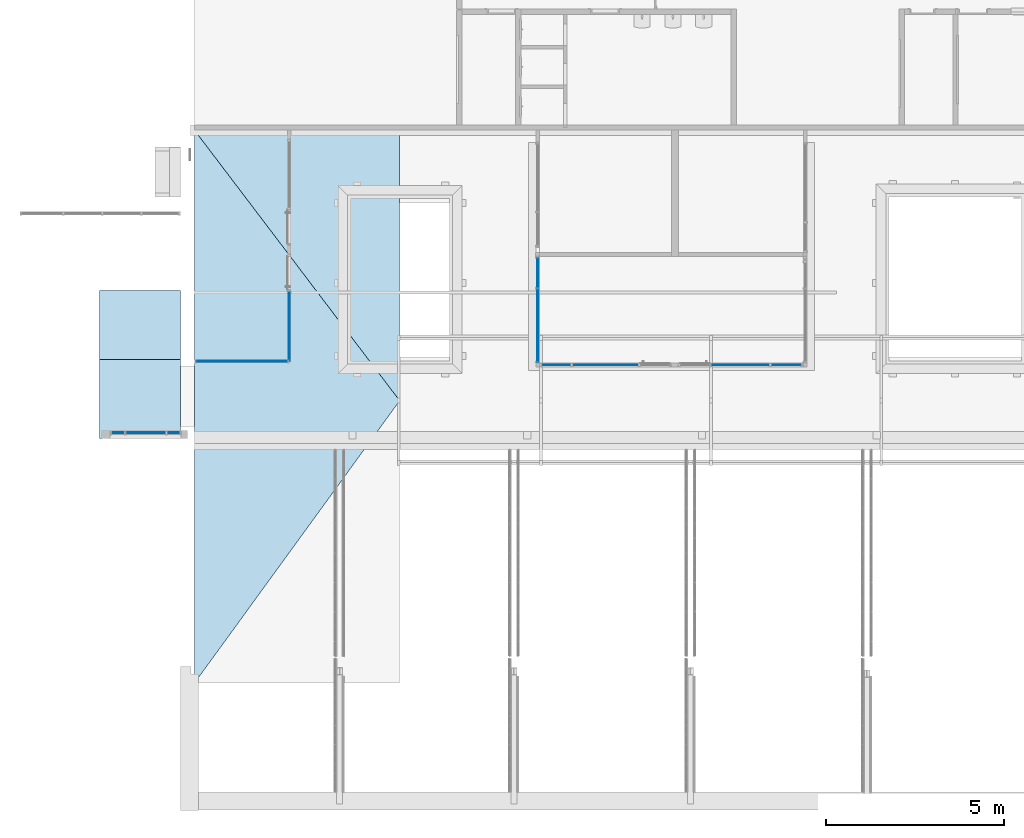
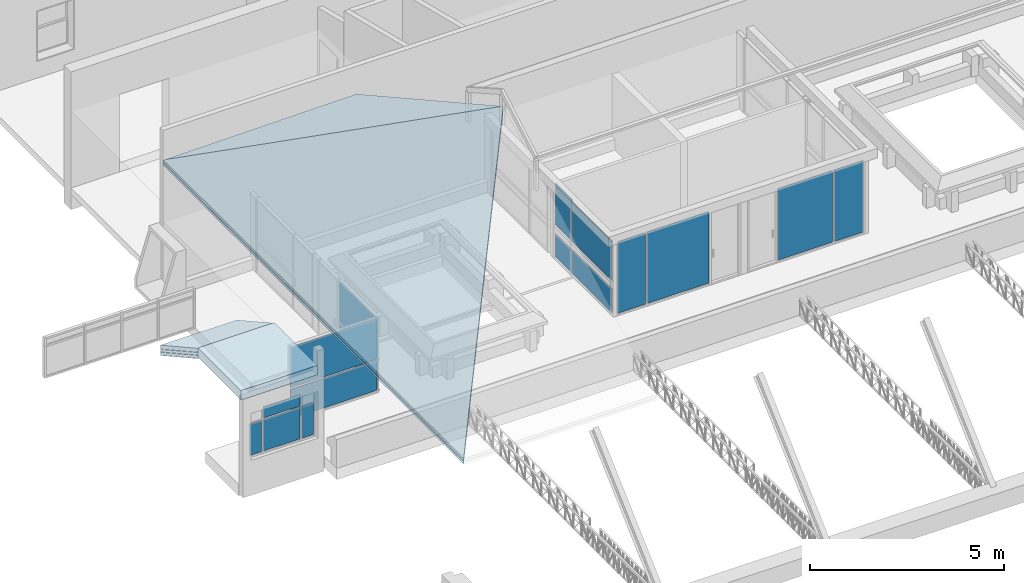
# One storey, part 102 of 153: 17 plates, 4 slabs, 9 elements without a shape of their own.
"""IFC4 building model written with IfcOpenShell, lengths in metres."""

from ifc_helpers import new_model, entity, si_unit, converted_unit, derived_unit, direction, frame, origin, place, context, subcontext, project, spatial, indexed_curve, outline, extrude, source, transform, mapped, material, constituent, constituent_set, type_object, type_shapes, element, aggregate, save


model = new_model("IFC4")

# Units and contexts
model_context = context("Model", 3, precision=1e-05, world=origin(), true_north=direction((6.123031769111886e-17, 1.0)))
body_context = subcontext(model_context, "Body", "Model", "MODEL_VIEW")
ifc_project = project(units=[si_unit("LENGTHUNIT", "METRE"), si_unit("AREAUNIT", "SQUARE_METRE"), si_unit("VOLUMEUNIT", "CUBIC_METRE"), converted_unit("PLANEANGLEUNIT", "DEGREE", entity("IfcRatioMeasure", 0.017453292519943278), si_unit("PLANEANGLEUNIT", "RADIAN"), dimensions=[0, 0, 0, 0, 0, 0, 0]), si_unit("MASSUNIT", "GRAM", prefix="KILO"), derived_unit("MASSDENSITYUNIT", [(si_unit("MASSUNIT", "GRAM", prefix="KILO"), 1), (si_unit("LENGTHUNIT", "METRE"), -3)]), derived_unit("MOMENTOFINERTIAUNIT", [(si_unit("LENGTHUNIT", "METRE"), 4)]), si_unit("TIMEUNIT", "SECOND"), si_unit("FREQUENCYUNIT", "HERTZ"), si_unit("THERMODYNAMICTEMPERATUREUNIT", "DEGREE_CELSIUS"), derived_unit("THERMALTRANSMITTANCEUNIT", [(si_unit("MASSUNIT", "GRAM", prefix="KILO"), 1), (si_unit("THERMODYNAMICTEMPERATUREUNIT", "KELVIN"), -1), (si_unit("TIMEUNIT", "SECOND"), -3)]), derived_unit("VOLUMETRICFLOWRATEUNIT", [(si_unit("LENGTHUNIT", "METRE"), 3), (si_unit("TIMEUNIT", "SECOND"), -1)]), derived_unit("MASSFLOWRATEUNIT", [(si_unit("MASSUNIT", "GRAM", prefix="KILO"), 1), (si_unit("TIMEUNIT", "SECOND"), -1)]), derived_unit("ROTATIONALFREQUENCYUNIT", [(si_unit("TIMEUNIT", "SECOND"), -1)]), si_unit("ELECTRICCURRENTUNIT", "AMPERE"), si_unit("ELECTRICVOLTAGEUNIT", "VOLT"), si_unit("POWERUNIT", "WATT"), si_unit("FORCEUNIT", "NEWTON", prefix="KILO"), si_unit("ILLUMINANCEUNIT", "LUX"), si_unit("LUMINOUSFLUXUNIT", "LUMEN"), si_unit("LUMINOUSINTENSITYUNIT", "CANDELA"), derived_unit("USERDEFINED", [(si_unit("MASSUNIT", "GRAM", prefix="KILO"), -1), (si_unit("LENGTHUNIT", "METRE"), -2), (si_unit("TIMEUNIT", "SECOND"), 3), (si_unit("LUMINOUSFLUXUNIT", "LUMEN"), 1)]), derived_unit("SOUNDPOWERUNIT", [(si_unit("MASSUNIT", "GRAM", prefix="KILO"), 1), (si_unit("LENGTHUNIT", "METRE"), 2), (si_unit("TIMEUNIT", "SECOND"), -3)]), derived_unit("SOUNDPRESSUREUNIT", [(si_unit("MASSUNIT", "GRAM", prefix="KILO"), 1), (si_unit("LENGTHUNIT", "METRE"), -1), (si_unit("TIMEUNIT", "SECOND"), -2)]), derived_unit("LINEARVELOCITYUNIT", [(si_unit("LENGTHUNIT", "METRE"), 1), (si_unit("TIMEUNIT", "SECOND"), -1)]), si_unit("PRESSUREUNIT", "PASCAL"), derived_unit("USERDEFINED", [(si_unit("LENGTHUNIT", "METRE"), -2), (si_unit("MASSUNIT", "GRAM", prefix="KILO"), 1), (si_unit("TIMEUNIT", "SECOND"), -2)]), derived_unit("LINEARFORCEUNIT", [(si_unit("MASSUNIT", "GRAM", prefix="KILO"), 1), (si_unit("LENGTHUNIT", "METRE"), 1), (si_unit("TIMEUNIT", "SECOND"), -2), (si_unit("LENGTHUNIT", "METRE"), -1)]), derived_unit("PLANARFORCEUNIT", [(si_unit("MASSUNIT", "GRAM", prefix="KILO"), 1), (si_unit("LENGTHUNIT", "METRE"), 1), (si_unit("TIMEUNIT", "SECOND"), -2), (si_unit("LENGTHUNIT", "METRE"), -2)])], contexts=[model_context])

# Site, building, storey
site_placement = place(None, origin())
site = spatial("IfcSite", under=ifc_project, at=site_placement, Name="Superficie", CompositionType="ELEMENT")
building_placement = place(site_placement, origin())
building = spatial("IfcBuilding", under=site, at=building_placement, CompositionType="ELEMENT")
storey_placement = place(building_placement, frame((0.0, 0.0, 3.5999999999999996)))
storey = spatial("IfcBuildingStorey", under=building, at=storey_placement, Name="Nivel 1", CompositionType="ELEMENT", Elevation=3.5999999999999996)

# Roof, slab
roof_1_placement = place(storey_placement, frame((-25.313200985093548, -3.024170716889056, 2.8999999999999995)))
roof_1 = element("IfcRoof", 1, at=roof_1_placement, inside=storey, Name="Cubierta básica:Plana tradicional transitable - 30 cm 2", ObjectType="Cubierta básica:Plana tradicional transitable - 30 cm 2", PredefinedType="NOTDEFINED")
ifc_material_1 = material(Name="Cerámica blanca", Category="Cerámica")
ifc_constituent_1 = constituent(ifc_material_1, Name="Cerámica blanca", Category="Cerámica")
ifc_material_2 = material(Name="Hormigón y arena", Category="Hormigón")
ifc_constituent_2 = constituent(ifc_material_2, Name="Hormigón y arena", Category="Hormigón")
ifc_material_3 = material(Name="Aislamiento térmico", Category="Varios")
ifc_constituent_3 = constituent(ifc_material_3, Name="Aislamiento térmico", Category="Varios")
ifc_material_4 = material(Name="Hormigón", Category="Hormigón")
ifc_constituent_4 = constituent(ifc_material_4, Name="Hormigón", Category="Hormigón")
ifc_constituent_set_1 = constituent_set(constituents=[ifc_constituent_1, ifc_constituent_2, ifc_constituent_3, ifc_constituent_4], Name="Cubierta básica:Plana tradicional transitable - 30 cm 2")
slab_type_1 = type_object("IfcSlabType", Name="Cubierta básica:Plana tradicional transitable - 30 cm 2", PredefinedType="ROOF")
slab_1_placement = place(roof_1_placement, origin())
slab_1 = element("IfcSlab", 2, at=slab_1_placement, type_object=slab_type_1, material=ifc_constituent_set_1, Name="Cubierta básica:Plana tradicional transitable - 30 cm 2", ObjectType="Cubierta básica:Plana tradicional transitable - 30 cm 2", PredefinedType="ROOF", context=body_context, shape_type="SweptSolid", body=[
    extrude(outline(indexed_curve([(1.1350000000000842, -1.1099999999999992), (1.1350000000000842, 1.1099999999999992), (-1.1350000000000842, 1.1099999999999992), (-1.1350000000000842, -1.1099999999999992), (1.1350000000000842, -1.1099999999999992)], self_intersect=False)), frame((1.1350000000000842, 1.1099999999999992, 0.0)), (0.0, 0.0, 1.0), 0.02),
    extrude(outline(indexed_curve([(1.1350000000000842, -1.1099999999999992), (1.1350000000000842, 1.1099999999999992), (-1.1350000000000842, 1.1099999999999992), (-1.1350000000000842, -1.1099999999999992), (1.1350000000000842, -1.1099999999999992)], self_intersect=False)), frame((1.1350000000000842, 1.1099999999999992, 0.019999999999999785)), (0.0, 0.0, 1.0), 0.08),
    extrude(outline(indexed_curve([(1.1350000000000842, -1.1099999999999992), (1.1350000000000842, 1.1099999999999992), (-1.1350000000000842, 1.1099999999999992), (-1.1350000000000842, -1.1099999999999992), (1.1350000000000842, -1.1099999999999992)], self_intersect=False)), frame((1.1350000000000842, 1.1099999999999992, 0.1)), (0.0, 0.0, 1.0), 0.08),
    extrude(outline(indexed_curve([(1.1350000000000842, -1.1099999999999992), (1.1350000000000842, 1.1099999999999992), (-1.1350000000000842, 1.1099999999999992), (-1.1350000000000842, -1.1099999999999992), (1.1350000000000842, -1.1099999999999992)], self_intersect=False)), frame((1.1350000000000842, 1.1099999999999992, 0.18000000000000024)), (0.0, 0.0, 1.0), 0.12),
])
aggregate(roof_1, [slab_1])

roof_2_placement = place(storey_placement, frame((-25.313200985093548, -0.8041707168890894, 1.7869799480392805)))
roof_2 = element("IfcRoof", 3, at=roof_2_placement, inside=storey, Name="Cubierta básica:Plana tradicional transitable - 30 cm 2", ObjectType="Cubierta básica:Plana tradicional transitable - 30 cm 2", PredefinedType="NOTDEFINED")
slab_type_2 = type_object("IfcSlabType", Name="Cubierta básica:Plana tradicional transitable - 30 cm 2", PredefinedType="ROOF")
slab_2_placement = place(roof_2_placement, origin())
slab_2 = element("IfcSlab", 4, at=slab_2_placement, type_object=slab_type_2, material=ifc_constituent_set_1, Name="Cubierta básica:Plana tradicional transitable - 30 cm 2", ObjectType="Cubierta básica:Plana tradicional transitable - 30 cm 2", PredefinedType="ROOF", context=body_context, shape_type="SweptSolid", body=[
    extrude(outline(indexed_curve([(-1.1350000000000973, -1.1033811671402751), (1.1350000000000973, -1.1033811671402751), (1.1350000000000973, 1.1033811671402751), (-1.1350000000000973, 1.1033811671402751), (-1.1350000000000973, -1.1033811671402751)], self_intersect=False)), frame((1.1350000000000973, 0.9649999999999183, 0.5349999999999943), z_axis=(0.0, 0.4848732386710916, 0.8745844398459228), x_axis=(1.0, 0.0, 0.0)), (0.0, -0.4848732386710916, 0.8745844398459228), 0.02),
    extrude(outline(indexed_curve([(-1.1350000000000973, -1.1033811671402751), (1.1350000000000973, -1.1033811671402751), (1.1350000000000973, 1.1033811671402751), (-1.1350000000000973, 1.1033811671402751), (-1.1350000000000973, -1.1033811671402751)], self_intersect=False)), frame((1.1350000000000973, 0.9649999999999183, 0.5578680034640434), z_axis=(0.0, 0.4848732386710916, 0.8745844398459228), x_axis=(1.0, 0.0, 0.0)), (0.0, -0.4848732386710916, 0.8745844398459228), 0.08),
    extrude(outline(indexed_curve([(-1.1350000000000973, -1.1033811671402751), (1.1350000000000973, -1.1033811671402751), (1.1350000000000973, 1.1033811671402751), (-1.1350000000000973, 1.1033811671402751), (-1.1350000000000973, -1.1033811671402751)], self_intersect=False)), frame((1.1350000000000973, 0.9649999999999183, 0.64934001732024), z_axis=(0.0, 0.4848732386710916, 0.8745844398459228), x_axis=(1.0, 0.0, 0.0)), (0.0, -0.4848732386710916, 0.8745844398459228), 0.08),
    extrude(outline(indexed_curve([(-1.1350000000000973, -1.1033811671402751), (1.1350000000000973, -1.1033811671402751), (1.1350000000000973, 1.1033811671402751), (-1.1350000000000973, 1.1033811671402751), (-1.1350000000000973, -1.1033811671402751)], self_intersect=False)), frame((1.1350000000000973, 0.9649999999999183, 0.7408120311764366), z_axis=(0.0, 0.4848732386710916, 0.8745844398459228), x_axis=(1.0, 0.0, 0.0)), (0.0, -0.4848732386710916, 0.8745844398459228), 0.12),
])
aggregate(roof_2, [slab_2])

# Curtain wall, plates
curtain_wall_type = type_object("IfcCurtainWallType", Name="Muro cortina:Muro cortina - simple", PredefinedType="NOTDEFINED")
curtain_wall_1_placement = place(storey_placement, frame((0.0, 0.0, -3.5999999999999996)))
curtain_wall_1 = element("IfcCurtainWall", 5, at=curtain_wall_1_placement, inside=storey, type_object=curtain_wall_type, Name="Muro cortina:Muro cortina - simple", ObjectType="Muro cortina:Muro cortina - simple", PredefinedType="NOTDEFINED")
ifc_material_5 = material(Name="Cristal", Category="Vidrio")
plate_type_1 = type_object("IfcPlateType", Name="Panel de sistema:Acristalado", PredefinedType="CURTAIN_PANEL", material=ifc_material_5)
shared_shape_1 = source(origin(), body_context, "Body", "SweptSolid", [
    extrude(outline(indexed_curve([(-0.01, -0.17500000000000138), (0.01, -0.17500000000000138), (0.01, 0.17500000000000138), (-0.01, 0.17500000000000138), (-0.01, -0.17500000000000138)], self_intersect=False)), frame((0.0, 0.0, 0.0), z_axis=(0.0, 0.0, 1.0), x_axis=(0.0, 1.0, 0.0)), (0.0, 0.0, 1.0), 0.9844802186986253),
])
type_shapes(plate_type_1, [shared_shape_1])
plate_1_placement = place(curtain_wall_1_placement, frame((-24.79320098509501, -2.8641707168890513, 4.545)))
plate_1 = element("IfcPlate", 6, at=plate_1_placement, type_object=plate_type_1, material=ifc_material_5, Name="Panel de sistema:Acristalado", ObjectType="Panel de sistema:Acristalado", PredefinedType="CURTAIN_PANEL", context=body_context, shape_type="MappedRepresentation", body=[
    mapped(shared_shape_1, transform((0.0, 0.0, 0.0), scale=1.0)),
])
plate_2_placement = place(curtain_wall_1_placement, frame((-23.243200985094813, -2.8641707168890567, 4.545)))
plate_2 = element("IfcPlate", 7, at=plate_2_placement, type_object=plate_type_1, material=ifc_material_5, Name="Panel de sistema:Acristalado", ObjectType="Panel de sistema:Acristalado", PredefinedType="CURTAIN_PANEL", context=body_context, shape_type="MappedRepresentation", body=[
    mapped(shared_shape_1, transform((0.0, 0.0, 0.0), scale=1.0)),
])
plate_type_2 = type_object("IfcPlateType", Name="Panel de sistema:Acristalado", PredefinedType="CURTAIN_PANEL", material=ifc_material_5)
shared_shape_2 = source(origin(), body_context, "Body", "SweptSolid", [
    extrude(outline(indexed_curve([(-0.01, -0.5500000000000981), (0.01, -0.5500000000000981), (0.01, 0.5500000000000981), (-0.01, 0.5500000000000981), (-0.01, -0.5500000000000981)], self_intersect=False)), frame((0.0, 0.0, 0.0), z_axis=(0.0, 0.0, 1.0), x_axis=(0.0, 1.0, 0.0)), (0.0, 0.0, 1.0), 0.9844802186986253),
])
type_shapes(plate_type_2, [shared_shape_2])
plate_3_placement = place(curtain_wall_1_placement, frame((-24.018200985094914, -2.864170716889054, 4.545)))
plate_3 = element("IfcPlate", 8, at=plate_3_placement, type_object=plate_type_2, material=ifc_material_5, Name="Panel de sistema:Acristalado", ObjectType="Panel de sistema:Acristalado", PredefinedType="CURTAIN_PANEL", context=body_context, shape_type="MappedRepresentation", body=[
    mapped(shared_shape_2, transform((0.0, 0.0, 0.0), scale=1.0)),
])
plate_type_3 = type_object("IfcPlateType", Name="Panel de sistema:Acristalado", PredefinedType="CURTAIN_PANEL", material=ifc_material_5)
shared_shape_3 = source(origin(), body_context, "Body", "SweptSolid", [
    extrude(outline(indexed_curve([(-0.01, -0.5500000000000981), (0.01, -0.5500000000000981), (0.01, 0.5500000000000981), (-0.01, 0.5500000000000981), (-0.01, -0.5500000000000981)], self_intersect=False)), frame((0.0, 0.0, 0.0), z_axis=(0.0, 0.0, 1.0), x_axis=(0.0, 1.0, 0.0)), (0.0, 0.0, 1.0), 0.3500000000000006),
])
type_shapes(plate_type_3, [shared_shape_3])
plate_4_placement = place(curtain_wall_1_placement, frame((-24.018200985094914, -2.864170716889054, 5.579480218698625)))
plate_4 = element("IfcPlate", 9, at=plate_4_placement, type_object=plate_type_3, material=ifc_material_5, Name="Panel de sistema:Acristalado", ObjectType="Panel de sistema:Acristalado", PredefinedType="CURTAIN_PANEL", context=body_context, shape_type="MappedRepresentation", body=[
    mapped(shared_shape_3, transform((0.0, 0.0, 0.0), scale=1.0)),
])
aggregate(curtain_wall_1, [plate_1, plate_3, plate_2, plate_4])

curtain_wall_2_placement = place(storey_placement, frame((0.0, 0.0, -3.5999999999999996)))
curtain_wall_2 = element("IfcCurtainWall", 10, at=curtain_wall_2_placement, inside=storey, type_object=curtain_wall_type, Name="Muro cortina:Muro cortina - simple", ObjectType="Muro cortina:Muro cortina - simple", PredefinedType="NOTDEFINED")
plate_type_4 = type_object("IfcPlateType", Name="Panel de sistema:Acristalado", PredefinedType="CURTAIN_PANEL", material=ifc_material_5)
shared_shape_4 = source(origin(), body_context, "Body", "SweptSolid", [
    extrude(outline(indexed_curve([(-0.01, -0.4374999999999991), (0.01, -0.4374999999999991), (0.01, 0.4374999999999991), (-0.01, 0.4374999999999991), (-0.01, -0.4374999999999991)], self_intersect=False)), frame((0.0, 0.0, 0.0), z_axis=(0.0, 0.0, 1.0), x_axis=(0.0, 1.0, 0.0)), (0.0, 0.0, 1.0), 2.250000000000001),
])
type_shapes(plate_type_4, [shared_shape_4])
plate_5_placement = place(curtain_wall_2_placement, frame((-6.035700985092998, -0.9636067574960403, 3.6499999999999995), z_axis=(0.0, 0.0, 1.0), x_axis=(-1.0, 0.0, 0.0)))
plate_5 = element("IfcPlate", 11, at=plate_5_placement, type_object=plate_type_4, material=ifc_material_5, Name="Panel de sistema:Acristalado", ObjectType="Panel de sistema:Acristalado", PredefinedType="CURTAIN_PANEL", context=body_context, shape_type="MappedRepresentation", body=[
    mapped(shared_shape_4, transform((0.0, 0.0, 0.0), scale=1.0)),
])
plate_type_5 = type_object("IfcPlateType", Name="Panel de sistema:Acristalado", PredefinedType="CURTAIN_PANEL", material=ifc_material_5)
shared_shape_5 = source(origin(), body_context, "Body", "SweptSolid", [
    extrude(outline(indexed_curve([(-0.01, -0.8124999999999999), (0.01, -0.8124999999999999), (0.01, 0.8124999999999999), (-0.01, 0.8124999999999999), (-0.01, -0.8124999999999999)], self_intersect=False)), frame((0.0, 0.0, 0.0), z_axis=(0.0, 0.0, 1.0), x_axis=(0.0, 1.0, 0.0)), (0.0, 0.0, 1.0), 2.250000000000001),
])
type_shapes(plate_type_5, [shared_shape_5])
plate_6_placement = place(curtain_wall_2_placement, frame((-7.335700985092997, -0.9636067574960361, 3.6499999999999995), z_axis=(0.0, 0.0, 1.0), x_axis=(-1.0, 0.0, 0.0)))
plate_6 = element("IfcPlate", 12, at=plate_6_placement, type_object=plate_type_5, material=ifc_material_5, Name="Panel de sistema:Acristalado", ObjectType="Panel de sistema:Acristalado", PredefinedType="CURTAIN_PANEL", context=body_context, shape_type="MappedRepresentation", body=[
    mapped(shared_shape_5, transform((0.0, 0.0, 0.0), scale=1.0)),
])
aggregate(curtain_wall_2, [plate_5, plate_6])

curtain_wall_3_placement = place(storey_placement, frame((0.0, 0.0, -3.5999999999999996)))
curtain_wall_3 = element("IfcCurtainWall", 13, at=curtain_wall_3_placement, inside=storey, type_object=curtain_wall_type, Name="Muro cortina:Muro cortina - simple", ObjectType="Muro cortina:Muro cortina - simple", PredefinedType="NOTDEFINED")
plate_type_6 = type_object("IfcPlateType", Name="Panel de sistema:Acristalado", PredefinedType="CURTAIN_PANEL", material=ifc_material_5)
shared_shape_6 = source(origin(), body_context, "Body", "SweptSolid", [
    extrude(outline(indexed_curve([(-0.01, -0.4124999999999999), (0.01, -0.4124999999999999), (0.01, 0.4124999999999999), (-0.01, 0.4124999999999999), (-0.01, -0.4124999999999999)], self_intersect=False)), frame((0.0, 0.0, 0.0), z_axis=(0.0, 0.0, 1.0), x_axis=(0.0, 1.0, 0.0)), (0.0, 0.0, 1.0), 2.250000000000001),
])
type_shapes(plate_type_6, [shared_shape_6])
plate_7_placement = place(curtain_wall_3_placement, frame((-12.500700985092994, -0.963606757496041, 3.6499999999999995)))
plate_7 = element("IfcPlate", 14, at=plate_7_placement, type_object=plate_type_6, material=ifc_material_5, Name="Panel de sistema:Acristalado", ObjectType="Panel de sistema:Acristalado", PredefinedType="CURTAIN_PANEL", context=body_context, shape_type="MappedRepresentation", body=[
    mapped(shared_shape_6, transform((0.0, 0.0, 0.0), scale=1.0)),
])
plate_type_7 = type_object("IfcPlateType", Name="Panel de sistema:Acristalado", PredefinedType="CURTAIN_PANEL", material=ifc_material_5)
shared_shape_7 = source(origin(), body_context, "Body", "SweptSolid", [
    extrude(outline(indexed_curve([(-0.01, -0.9199999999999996), (0.01, -0.9199999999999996), (0.01, 0.9199999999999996), (-0.01, 0.9199999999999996), (-0.01, -0.9199999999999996)], self_intersect=False)), frame((0.0, 0.0, 0.0), z_axis=(0.0, 0.0, 1.0), x_axis=(0.0, 1.0, 0.0)), (0.0, 0.0, 1.0), 2.250000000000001),
])
type_shapes(plate_type_7, [shared_shape_7])
plate_8_placement = place(curtain_wall_3_placement, frame((-11.118200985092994, -0.9636067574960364, 3.6499999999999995)))
plate_8 = element("IfcPlate", 15, at=plate_8_placement, type_object=plate_type_7, material=ifc_material_5, Name="Panel de sistema:Acristalado", ObjectType="Panel de sistema:Acristalado", PredefinedType="CURTAIN_PANEL", context=body_context, shape_type="MappedRepresentation", body=[
    mapped(shared_shape_7, transform((0.0, 0.0, 0.0), scale=1.0)),
])
aggregate(curtain_wall_3, [plate_7, plate_8])

curtain_wall_4_placement = place(storey_placement, frame((0.0, 0.0, -3.5999999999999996)))
curtain_wall_4 = element("IfcCurtainWall", 16, at=curtain_wall_4_placement, inside=storey, type_object=curtain_wall_type, Name="Muro cortina:Muro cortina - simple", ObjectType="Muro cortina:Muro cortina - simple", PredefinedType="NOTDEFINED")
plate_type_8 = type_object("IfcPlateType", Name="Panel de sistema:Acristalado", PredefinedType="CURTAIN_PANEL", material=ifc_material_5)
shared_shape_8 = source(origin(), body_context, "Body", "SweptSolid", [
    extrude(outline(indexed_curve([(-0.01, -1.0230801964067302), (0.01, -1.0230801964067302), (0.01, 1.0230801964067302), (-0.01, 1.0230801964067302), (-0.01, -1.0230801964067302)], self_intersect=False)), frame((0.0, 0.0, 0.0), z_axis=(0.0, 0.0, 1.0), x_axis=(0.0, 1.0, 0.0)), (0.0, 0.0, 1.0), 0.7600000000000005),
])
type_shapes(plate_type_8, [shared_shape_8])
plate_9_placement = place(curtain_wall_4_placement, frame((-13.023200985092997, 0.1383130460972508, 3.6449999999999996), z_axis=(0.0, 0.0, 1.0), x_axis=(0.0, 1.0, 0.0)))
plate_9 = element("IfcPlate", 17, at=plate_9_placement, type_object=plate_type_8, material=ifc_material_5, Name="Panel de sistema:Acristalado", ObjectType="Panel de sistema:Acristalado", PredefinedType="CURTAIN_PANEL", context=body_context, shape_type="MappedRepresentation", body=[
    mapped(shared_shape_8, transform((0.0, 0.0, 0.0), scale=1.0)),
])
plate_type_9 = type_object("IfcPlateType", Name="Panel de sistema:Acristalado", PredefinedType="CURTAIN_PANEL", material=ifc_material_5)
shared_shape_9 = source(origin(), body_context, "Body", "SweptSolid", [
    extrude(outline(indexed_curve([(-0.01, -0.41250000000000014), (0.01, -0.41250000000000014), (0.01, 0.41250000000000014), (-0.01, 0.41250000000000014), (-0.01, -0.41250000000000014)], self_intersect=False)), frame((0.0, 0.0, 0.0), z_axis=(0.0, 0.0, 1.0), x_axis=(0.0, 1.0, 0.0)), (0.0, 0.0, 1.0), 0.7350000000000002),
])
type_shapes(plate_type_9, [shared_shape_9])
plate_10_placement = place(curtain_wall_4_placement, frame((-13.023200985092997, 1.6238932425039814, 3.6449999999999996), z_axis=(0.0, 0.0, 1.0), x_axis=(0.0, 1.0, 0.0)))
plate_10 = element("IfcPlate", 18, at=plate_10_placement, type_object=plate_type_9, material=ifc_material_5, Name="Panel de sistema:Acristalado", ObjectType="Panel de sistema:Acristalado", PredefinedType="CURTAIN_PANEL", context=body_context, shape_type="MappedRepresentation", body=[
    mapped(shared_shape_9, transform((0.0, 0.0, 0.0), scale=1.0)),
])
plate_type_10 = type_object("IfcPlateType", Name="Panel de sistema:Acristalado", PredefinedType="CURTAIN_PANEL", material=ifc_material_5)
shared_shape_10 = source(origin(), body_context, "Body", "SweptSolid", [
    extrude(outline(indexed_curve([(-0.01, -1.0230801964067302), (0.01, -1.0230801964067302), (0.01, 1.0230801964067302), (-0.01, 1.0230801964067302), (-0.01, -1.0230801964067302)], self_intersect=False)), frame((0.0, 0.0, 0.0), z_axis=(0.0, 0.0, 1.0), x_axis=(0.0, 1.0, 0.0)), (0.0, 0.0, 1.0), 1.2249999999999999),
])
type_shapes(plate_type_10, [shared_shape_10])
plate_11_placement = place(curtain_wall_4_placement, frame((-13.023200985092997, 0.13831304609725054, 4.654999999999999), z_axis=(0.0, 0.0, 1.0), x_axis=(0.0, 1.0, 0.0)))
plate_11 = element("IfcPlate", 19, at=plate_11_placement, type_object=plate_type_10, material=ifc_material_5, Name="Panel de sistema:Acristalado", ObjectType="Panel de sistema:Acristalado", PredefinedType="CURTAIN_PANEL", context=body_context, shape_type="MappedRepresentation", body=[
    mapped(shared_shape_10, transform((0.0, 0.0, 0.0), scale=1.0)),
])
plate_type_11 = type_object("IfcPlateType", Name="Panel de sistema:Acristalado", PredefinedType="CURTAIN_PANEL", material=ifc_material_5)
shared_shape_11 = source(origin(), body_context, "Body", "SweptSolid", [
    extrude(outline(indexed_curve([(-0.01, -0.41250000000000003), (0.01, -0.41250000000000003), (0.01, 0.41250000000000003), (-0.01, 0.41250000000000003), (-0.01, -0.41250000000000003)], self_intersect=False)), frame((0.0, 0.0, 0.0), z_axis=(0.0, 0.0, 1.0), x_axis=(0.0, 1.0, 0.0)), (0.0, 0.0, 1.0), 1.2249999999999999),
])
type_shapes(plate_type_11, [shared_shape_11])
plate_12_placement = place(curtain_wall_4_placement, frame((-13.023200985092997, 1.6238932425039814, 4.654999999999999), z_axis=(0.0, 0.0, 1.0), x_axis=(0.0, 1.0, 0.0)))
plate_12 = element("IfcPlate", 20, at=plate_12_placement, type_object=plate_type_11, material=ifc_material_5, Name="Panel de sistema:Acristalado", ObjectType="Panel de sistema:Acristalado", PredefinedType="CURTAIN_PANEL", context=body_context, shape_type="MappedRepresentation", body=[
    mapped(shared_shape_11, transform((0.0, 0.0, 0.0), scale=1.0)),
])
plate_type_12 = type_object("IfcPlateType", Name="Panel de sistema:Acristalado", PredefinedType="CURTAIN_PANEL", material=ifc_material_5)
shared_shape_12 = source(origin(), body_context, "Body", "SweptSolid", [
    extrude(outline(indexed_curve([(-0.025714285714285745, -1.7222574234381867), (-0.005714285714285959, -1.7222574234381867), (-0.005714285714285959, 0.3489029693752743), (0.04428571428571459, 0.3489029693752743), (0.04428571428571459, 1.1989029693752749), (-0.025714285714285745, 1.1989029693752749), (-0.025714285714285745, 0.3489029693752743), (-0.025714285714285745, -1.7222574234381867)], self_intersect=False)), frame((0.2616772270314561, -0.01, 0.025714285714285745), z_axis=(0.0, 1.0, 0.0), x_axis=(0.0, 0.0, 1.0)), (0.0, 0.0, 1.0), 0.02),
])
type_shapes(plate_type_12, [shared_shape_12])
plate_13_placement = place(curtain_wall_4_placement, frame((-13.023200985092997, 0.5758130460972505, 5.879999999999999), z_axis=(0.0, 0.0, 1.0), x_axis=(0.0, 1.0, 0.0)))
plate_13 = element("IfcPlate", 21, at=plate_13_placement, type_object=plate_type_12, material=ifc_material_5, Name="Panel de sistema:Acristalado", ObjectType="Panel de sistema:Acristalado", PredefinedType="CURTAIN_PANEL", context=body_context, shape_type="MappedRepresentation", body=[
    mapped(shared_shape_12, transform((0.0, 0.0, 0.0), scale=1.0)),
])
aggregate(curtain_wall_4, [plate_9, plate_10, plate_11, plate_12, plate_13])

curtain_wall_5_placement = place(storey_placement, frame((0.0, 0.0, -3.5999999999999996)))
curtain_wall_5 = element("IfcCurtainWall", 22, at=curtain_wall_5_placement, inside=storey, type_object=curtain_wall_type, Name="Muro cortina:Muro cortina - simple", ObjectType="Muro cortina:Muro cortina - simple", PredefinedType="NOTDEFINED")
plate_type_13 = type_object("IfcPlateType", Name="Panel de sistema:Acristalado", PredefinedType="CURTAIN_PANEL", material=ifc_material_5)
shared_shape_13 = source(origin(), body_context, "Body", "SweptSolid", [
    extrude(outline(indexed_curve([(-0.01, -1.275000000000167), (0.01, -1.275000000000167), (0.01, 1.275000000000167), (-0.01, 1.275000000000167), (-0.01, -1.275000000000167)], self_intersect=False)), frame((0.0, 0.0, 0.0), z_axis=(0.0, 0.0, 1.0), x_axis=(0.0, 1.0, 0.0)), (0.0, 0.0, 1.0), 0.9249999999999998),
])
type_shapes(plate_type_13, [shared_shape_13])
plate_14_placement = place(curtain_wall_5_placement, frame((-21.318200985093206, -0.8590623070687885, 3.6499999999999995)))
plate_14 = element("IfcPlate", 23, at=plate_14_placement, type_object=plate_type_13, material=ifc_material_5, Name="Panel de sistema:Acristalado", ObjectType="Panel de sistema:Acristalado", PredefinedType="CURTAIN_PANEL", context=body_context, shape_type="MappedRepresentation", body=[
    mapped(shared_shape_13, transform((0.0, 0.0, 0.0), scale=1.0)),
])
plate_type_14 = type_object("IfcPlateType", Name="Panel de sistema:Acristalado", PredefinedType="CURTAIN_PANEL", material=ifc_material_5)
shared_shape_14 = source(origin(), body_context, "Body", "SweptSolid", [
    extrude(outline(indexed_curve([(-0.01, -1.275000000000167), (0.01, -1.275000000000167), (0.01, 1.275000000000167), (-0.01, 1.275000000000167), (-0.01, -1.275000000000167)], self_intersect=False)), frame((0.0, 0.0, 0.0), z_axis=(0.0, 0.0, 1.0), x_axis=(0.0, 1.0, 0.0)), (0.0, 0.0, 1.0), 1.2749999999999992),
])
type_shapes(plate_type_14, [shared_shape_14])
plate_15_placement = place(curtain_wall_5_placement, frame((-21.318200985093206, -0.8590623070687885, 4.625)))
plate_15 = element("IfcPlate", 24, at=plate_15_placement, type_object=plate_type_14, material=ifc_material_5, Name="Panel de sistema:Acristalado", ObjectType="Panel de sistema:Acristalado", PredefinedType="CURTAIN_PANEL", context=body_context, shape_type="MappedRepresentation", body=[
    mapped(shared_shape_14, transform((0.0, 0.0, 0.0), scale=1.0)),
])
aggregate(curtain_wall_5, [plate_14, plate_15])

curtain_wall_6_placement = place(storey_placement, frame((0.0, 0.0, -3.5999999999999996)))
curtain_wall_6 = element("IfcCurtainWall", 25, at=curtain_wall_6_placement, inside=storey, type_object=curtain_wall_type, Name="Muro cortina:Muro cortina - simple", ObjectType="Muro cortina:Muro cortina - simple", PredefinedType="NOTDEFINED")
plate_type_15 = type_object("IfcPlateType", Name="Panel de sistema:Acristalado", PredefinedType="CURTAIN_PANEL", material=ifc_material_5)
shared_shape_15 = source(origin(), body_context, "Body", "SweptSolid", [
    extrude(outline(indexed_curve([(-0.01, -0.9755727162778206), (0.01, -0.9755727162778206), (0.01, 0.9755727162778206), (-0.01, 0.9755727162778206), (-0.01, -0.9755727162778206)], self_intersect=False)), frame((0.0, 0.0, 0.0), z_axis=(0.0, 0.0, 1.0), x_axis=(0.0, 1.0, 0.0)), (0.0, 0.0, 1.0), 0.9249999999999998),
])
type_shapes(plate_type_15, [shared_shape_15])
plate_16_placement = place(curtain_wall_6_placement, frame((-19.993200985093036, 0.11651040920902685, 3.6499999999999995), z_axis=(0.0, 0.0, 1.0), x_axis=(0.0, -1.0, 0.0)))
plate_16 = element("IfcPlate", 26, at=plate_16_placement, type_object=plate_type_15, material=ifc_material_5, Name="Panel de sistema:Acristalado", ObjectType="Panel de sistema:Acristalado", PredefinedType="CURTAIN_PANEL", context=body_context, shape_type="MappedRepresentation", body=[
    mapped(shared_shape_15, transform((0.0, 0.0, 0.0), scale=1.0)),
])
plate_type_16 = type_object("IfcPlateType", Name="Panel de sistema:Acristalado", PredefinedType="CURTAIN_PANEL", material=ifc_material_5)
shared_shape_16 = source(origin(), body_context, "Body", "SweptSolid", [
    extrude(outline(indexed_curve([(-0.01, -0.9755727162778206), (0.01, -0.9755727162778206), (0.01, 0.9755727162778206), (-0.01, 0.9755727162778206), (-0.01, -0.9755727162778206)], self_intersect=False)), frame((0.0, 0.0, 0.0), z_axis=(0.0, 0.0, 1.0), x_axis=(0.0, 1.0, 0.0)), (0.0, 0.0, 1.0), 1.2749999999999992),
])
type_shapes(plate_type_16, [shared_shape_16])
plate_17_placement = place(curtain_wall_6_placement, frame((-19.993200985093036, 0.11651040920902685, 4.625), z_axis=(0.0, 0.0, 1.0), x_axis=(0.0, -1.0, 0.0)))
plate_17 = element("IfcPlate", 27, at=plate_17_placement, type_object=plate_type_16, material=ifc_material_5, Name="Panel de sistema:Acristalado", ObjectType="Panel de sistema:Acristalado", PredefinedType="CURTAIN_PANEL", context=body_context, shape_type="MappedRepresentation", body=[
    mapped(shared_shape_16, transform((0.0, 0.0, 0.0), scale=1.0)),
])
aggregate(curtain_wall_6, [plate_16, plate_17])

# Roof, slabs
roof_3_placement = place(storey_placement, frame((-22.643200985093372, -9.877877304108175, 4.107718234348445)))
roof_3 = element("IfcRoof", 28, at=roof_3_placement, inside=storey, Name="Cubierta básica:Plana tipo deck - 16 cm", ObjectType="Cubierta básica:Plana tipo deck - 16 cm", PredefinedType="NOTDEFINED")
ifc_constituent_5 = constituent(ifc_material_3, Name="Aislamiento térmico", Category="Varios")
ifc_material_6 = material(Name="Metal - Chapado (1)", Category="Metal")
ifc_constituent_6 = constituent(ifc_material_6, Name="Metal - Chapado (1)", Category="Metal")
ifc_constituent_set_2 = constituent_set(constituents=[ifc_constituent_5, ifc_constituent_6], Name="Cubierta básica:Plana tipo deck - 16 cm")
slab_type_3 = type_object("IfcSlabType", Name="Cubierta básica:Plana tipo deck - 16 cm", PredefinedType="ROOF")
slab_3_placement = place(roof_3_placement, origin())
slab_3 = element("IfcSlab", 29, at=slab_3_placement, type_object=slab_type_3, material=ifc_constituent_set_2, Name="Cubierta básica:Plana tipo deck - 16 cm", ObjectType="Cubierta básica:Plana tipo deck - 16 cm", PredefinedType="ROOF", context=body_context, shape_type="SweptSolid", body=[
    extrude(outline(indexed_curve([(0.0, -7.746853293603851), (7.168047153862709, 0.16656971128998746), (0.0, 7.746853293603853), (0.0, -7.746853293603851)], self_intersect=False)), frame((0.0, 7.746853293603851, 0.0), z_axis=(-0.5970942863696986, 0.0, 0.8021710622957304), x_axis=(0.8021710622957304, 0.0, 0.5970942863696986)), (0.5970942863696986, 0.0, 0.8021710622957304), 0.08),
    extrude(outline(indexed_curve([(0.0, -7.746853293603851), (7.168047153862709, 0.16656971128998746), (0.0, 7.746853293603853), (0.0, -7.746853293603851)], self_intersect=False)), frame((0.0, 7.746853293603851, 0.09972935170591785), z_axis=(-0.5970942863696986, 0.0, 0.8021710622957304), x_axis=(0.8021710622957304, 0.0, 0.5970942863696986)), (0.5970942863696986, 0.0, 0.8021710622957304), 0.08),
])
slab_type_4 = type_object("IfcSlabType", Name="Cubierta básica:Plana tipo deck - 16 cm", PredefinedType="ROOF")
slab_4_placement = place(roof_3_placement, origin())
slab_4 = element("IfcSlab", 30, at=slab_4_placement, type_object=slab_type_4, material=ifc_constituent_set_2, Name="Cubierta básica:Plana tipo deck - 16 cm", ObjectType="Cubierta básica:Plana tipo deck - 16 cm", PredefinedType="ROOF", context=body_context, shape_type="SweptSolid", body=[
    extrude(outline(indexed_curve([(2.875162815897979, 4.3184648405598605), (-2.875162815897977, 4.352452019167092), (2.875162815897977, -4.352452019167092), (2.875162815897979, 4.3184648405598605)], self_intersect=False)), frame((2.874999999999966, 11.70356479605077, 2.1400000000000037), z_axis=(-0.0106420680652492, 0.4855036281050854, 0.8741698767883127), x_axis=(0.9999433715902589, 0.005167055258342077, 0.009303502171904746)), (0.009303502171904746, -0.48553112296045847, 0.8741698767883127), 0.08),
    extrude(outline(indexed_curve([(2.875162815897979, 4.3184648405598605), (-2.875162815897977, 4.352452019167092), (2.875162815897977, -4.352452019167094), (2.875162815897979, 4.3184648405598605)], self_intersect=False)), frame((2.874999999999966, 11.70356479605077, 2.2315153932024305), z_axis=(-0.0106420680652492, 0.4855036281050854, 0.8741698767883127), x_axis=(0.9999433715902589, 0.005167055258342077, 0.009303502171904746)), (0.009303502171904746, -0.48553112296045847, 0.8741698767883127), 0.08),
])
aggregate(roof_3, [slab_3, slab_4])

save(model, "model.ifc")
